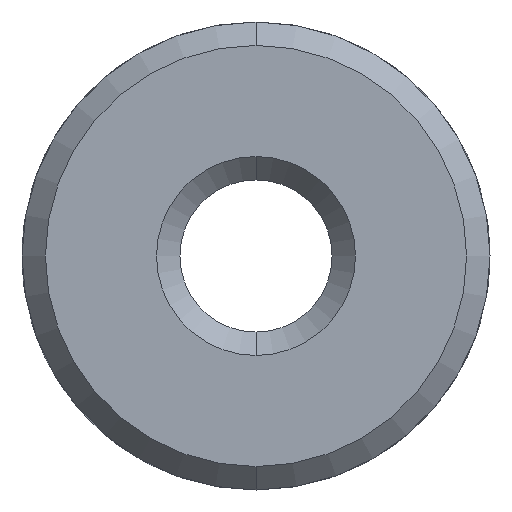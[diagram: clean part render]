
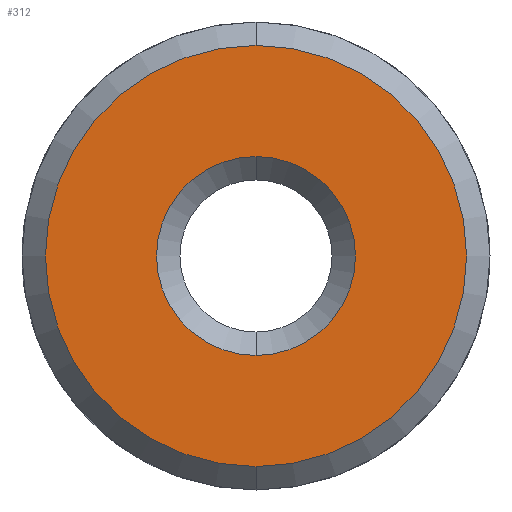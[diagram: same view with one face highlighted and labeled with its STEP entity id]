
A CAD part, front view. The second image highlights one B-rep face of the part: STEP entity #312.
In plain terms, the highlighted planar face has unit normal (0, -1, 0).
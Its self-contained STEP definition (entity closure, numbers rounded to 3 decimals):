
#3 = DIRECTION ( 'NONE',  ( 0., 0., 1. ) ) ;
#18 = ORIENTED_EDGE ( 'NONE', *, *, #484, .T. ) ;
#30 = CARTESIAN_POINT ( 'NONE',  ( 0., 0., 1.8 ) ) ;
#52 = AXIS2_PLACEMENT_3D ( 'NONE', #434, #747, #680 ) ;
#94 = CIRCLE ( 'NONE', #508, 0.85 ) ;
#105 = CARTESIAN_POINT ( 'NONE',  ( 0., 0., -0.85 ) ) ;
#120 = EDGE_LOOP ( 'NONE', ( #450, #18 ) ) ;
#128 = VERTEX_POINT ( 'NONE', #30 ) ;
#136 = PLANE ( 'NONE',  #607 ) ;
#145 = DIRECTION ( 'NONE',  ( 0., 1., 0. ) ) ;
#171 = DIRECTION ( 'NONE',  ( 0., 0., 1. ) ) ;
#175 = VERTEX_POINT ( 'NONE', #551 ) ;
#258 = CARTESIAN_POINT ( 'NONE',  ( 0., 0., 0. ) ) ;
#281 = EDGE_LOOP ( 'NONE', ( #427, #590 ) ) ;
#312 = ADVANCED_FACE ( 'NONE', ( #830, #393 ), #136, .F. ) ;
#321 = EDGE_CURVE ( 'NONE', #175, #128, #453, .T. ) ;
#332 = DIRECTION ( 'NONE',  ( 0., 1., 0. ) ) ;
#376 = CARTESIAN_POINT ( 'NONE',  ( 0., 0., 0. ) ) ;
#393 = FACE_OUTER_BOUND ( 'NONE', #281, .T. ) ;
#427 = ORIENTED_EDGE ( 'NONE', *, *, #634, .T. ) ;
#429 = DIRECTION ( 'NONE',  ( 0., -1., 0. ) ) ;
#434 = CARTESIAN_POINT ( 'NONE',  ( 0., 0., 0. ) ) ;
#450 = ORIENTED_EDGE ( 'NONE', *, *, #611, .T. ) ;
#453 = CIRCLE ( 'NONE', #809, 1.8 ) ;
#461 = CARTESIAN_POINT ( 'NONE',  ( 0., 0., 0. ) ) ;
#484 = EDGE_CURVE ( 'NONE', #538, #676, #94, .T. ) ;
#508 = AXIS2_PLACEMENT_3D ( 'NONE', #461, #145, #598 ) ;
#525 = CIRCLE ( 'NONE', #629, 1.8 ) ;
#538 = VERTEX_POINT ( 'NONE', #665 ) ;
#551 = CARTESIAN_POINT ( 'NONE',  ( 0., 0., -1.8 ) ) ;
#590 = ORIENTED_EDGE ( 'NONE', *, *, #321, .T. ) ;
#598 = DIRECTION ( 'NONE',  ( 0., 0., 1. ) ) ;
#607 = AXIS2_PLACEMENT_3D ( 'NONE', #258, #332, #705 ) ;
#610 = CARTESIAN_POINT ( 'NONE',  ( 0., 0., 0. ) ) ;
#611 = EDGE_CURVE ( 'NONE', #676, #538, #675, .T. ) ;
#629 = AXIS2_PLACEMENT_3D ( 'NONE', #610, #429, #171 ) ;
#634 = EDGE_CURVE ( 'NONE', #128, #175, #525, .T. ) ;
#665 = CARTESIAN_POINT ( 'NONE',  ( 0., 0., 0.85 ) ) ;
#675 = CIRCLE ( 'NONE', #52, 0.85 ) ;
#676 = VERTEX_POINT ( 'NONE', #105 ) ;
#680 = DIRECTION ( 'NONE',  ( 0., 0., 1. ) ) ;
#705 = DIRECTION ( 'NONE',  ( 0., 0., 1. ) ) ;
#747 = DIRECTION ( 'NONE',  ( 0., 1., 0. ) ) ;
#777 = DIRECTION ( 'NONE',  ( 0., -1., 0. ) ) ;
#809 = AXIS2_PLACEMENT_3D ( 'NONE', #376, #777, #3 ) ;
#830 = FACE_BOUND ( 'NONE', #120, .T. ) ;
